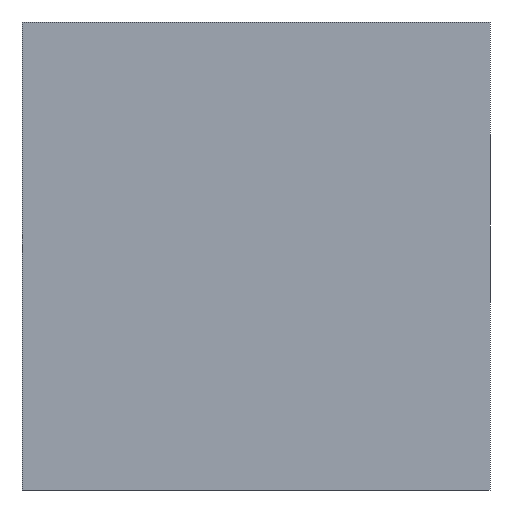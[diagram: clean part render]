
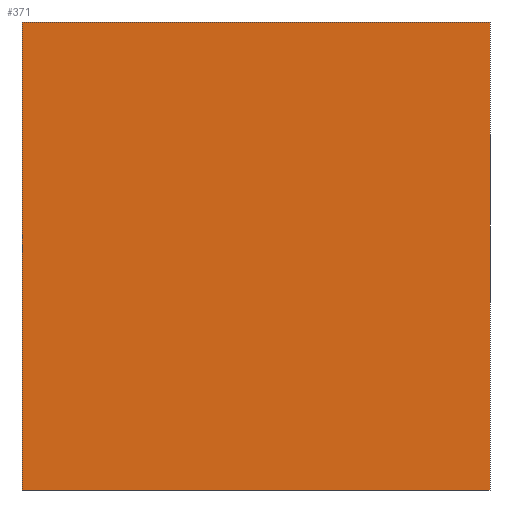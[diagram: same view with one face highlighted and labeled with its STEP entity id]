
A CAD part, front view. The second image highlights one B-rep face of the part: STEP entity #371.
In plain terms, the highlighted planar face has unit normal (0, -1, 0).
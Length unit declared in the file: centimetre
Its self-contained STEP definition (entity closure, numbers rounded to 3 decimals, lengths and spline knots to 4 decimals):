
#2 = PLANE ( 'NONE',  #116 ) ;
#17 = CARTESIAN_POINT ( 'NONE',  ( 1000., 0., 0. ) ) ;
#19 = VERTEX_POINT ( 'NONE', #339 ) ;
#30 = CARTESIAN_POINT ( 'NONE',  ( 1000., 0., 1000. ) ) ;
#32 = DIRECTION ( 'NONE',  ( 0., 0., 1. ) ) ;
#56 = CARTESIAN_POINT ( 'NONE',  ( 0., 0., 1000. ) ) ;
#64 = VECTOR ( 'NONE', #268, 100. ) ;
#72 = EDGE_CURVE ( 'NONE', #19, #376, #232, .T. ) ;
#75 = DIRECTION ( 'NONE',  ( 1., 0., 0. ) ) ;
#89 = LINE ( 'NONE', #244, #198 ) ;
#106 = LINE ( 'NONE', #228, #370 ) ;
#111 = CARTESIAN_POINT ( 'NONE',  ( 0., 0., 1000. ) ) ;
#116 = AXIS2_PLACEMENT_3D ( 'NONE', #335, #305, #32 ) ;
#136 = LINE ( 'NONE', #56, #264 ) ;
#178 = EDGE_LOOP ( 'NONE', ( #368, #382, #283, #233 ) ) ;
#198 = VECTOR ( 'NONE', #351, 100. ) ;
#218 = EDGE_CURVE ( 'NONE', #376, #249, #89, .T. ) ;
#228 = CARTESIAN_POINT ( 'NONE',  ( 0., 0., 0. ) ) ;
#229 = EDGE_CURVE ( 'NONE', #19, #482, #136, .T. ) ;
#232 = LINE ( 'NONE', #111, #64 ) ;
#233 = ORIENTED_EDGE ( 'NONE', *, *, #229, .T. ) ;
#244 = CARTESIAN_POINT ( 'NONE',  ( 1000., 0., 1000. ) ) ;
#249 = VERTEX_POINT ( 'NONE', #17 ) ;
#264 = VECTOR ( 'NONE', #442, 100. ) ;
#268 = DIRECTION ( 'NONE',  ( 1., 0., 0. ) ) ;
#283 = ORIENTED_EDGE ( 'NONE', *, *, #72, .F. ) ;
#305 = DIRECTION ( 'NONE',  ( 0., 1., 0. ) ) ;
#335 = CARTESIAN_POINT ( 'NONE',  ( 0., 0., 1000. ) ) ;
#339 = CARTESIAN_POINT ( 'NONE',  ( 0., 0., 1000. ) ) ;
#351 = DIRECTION ( 'NONE',  ( 0., 0., -1. ) ) ;
#368 = ORIENTED_EDGE ( 'NONE', *, *, #405, .T. ) ;
#370 = VECTOR ( 'NONE', #75, 100. ) ;
#371 = ADVANCED_FACE ( 'NONE', ( #374 ), #2, .F. ) ;
#374 = FACE_OUTER_BOUND ( 'NONE', #178, .T. ) ;
#376 = VERTEX_POINT ( 'NONE', #30 ) ;
#382 = ORIENTED_EDGE ( 'NONE', *, *, #218, .F. ) ;
#405 = EDGE_CURVE ( 'NONE', #482, #249, #106, .T. ) ;
#427 = CARTESIAN_POINT ( 'NONE',  ( 0., 0., 0. ) ) ;
#442 = DIRECTION ( 'NONE',  ( 0., 0., -1. ) ) ;
#482 = VERTEX_POINT ( 'NONE', #427 ) ;
